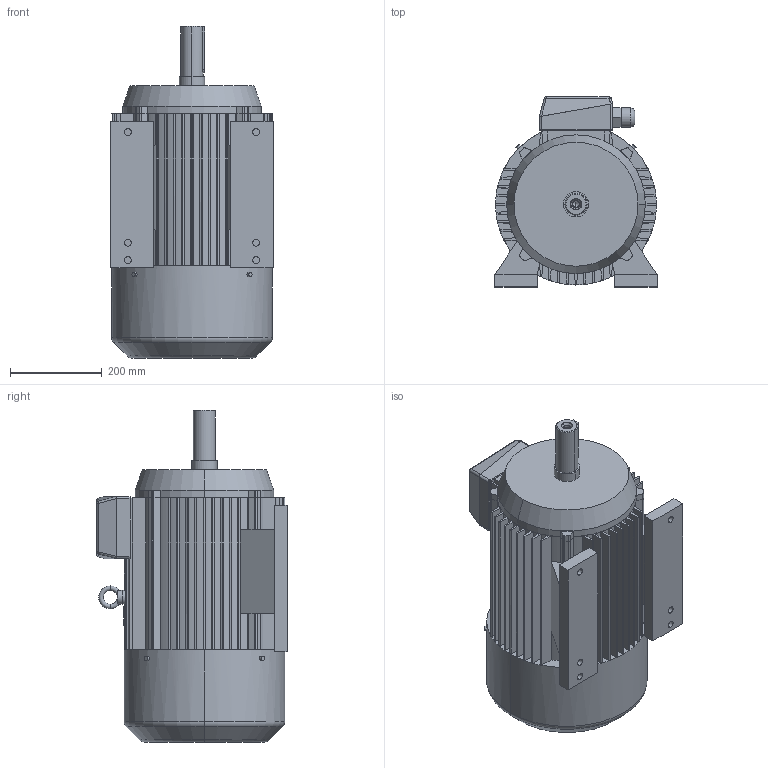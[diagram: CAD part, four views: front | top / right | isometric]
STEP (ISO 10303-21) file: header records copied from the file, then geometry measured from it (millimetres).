
FILE_DESCRIPTION (( 'STEP AP203' ), '1' );
FILE_NAME ('3SIE180M.STEP', '2016-09-13T08:45:11', ( 'Indukta' ), ( 'Celma Indukta S.A.' ), 'SwSTEP 2.0', 'SolidWorks 2003064', '' );
FILE_SCHEMA (( 'CONFIG_CONTROL_DESIGN' ));
Length unit declared in the file: millimetre
Products named in the file (1): 3SIE180M
Bounding box: 353 x 414 x 723 mm (x, y, z)
Volume: 53510291.2 mm3; surface area: 1936379.2 mm2
Topology: 17 solids, 17 shells, 439 faces, 1114 edges, 703 vertices
Faces by surface type: plane 227, cylinder 178, torus 16, cone 14, sphere 4
Entity records: 13569 total; most frequent: CARTESIAN_POINT 2626, DIRECTION 2409, ORIENTED_EDGE 2216, EDGE_CURVE 1108, AXIS2_PLACEMENT_3D 892, VERTEX_POINT 703, LINE 625, VECTOR 625
